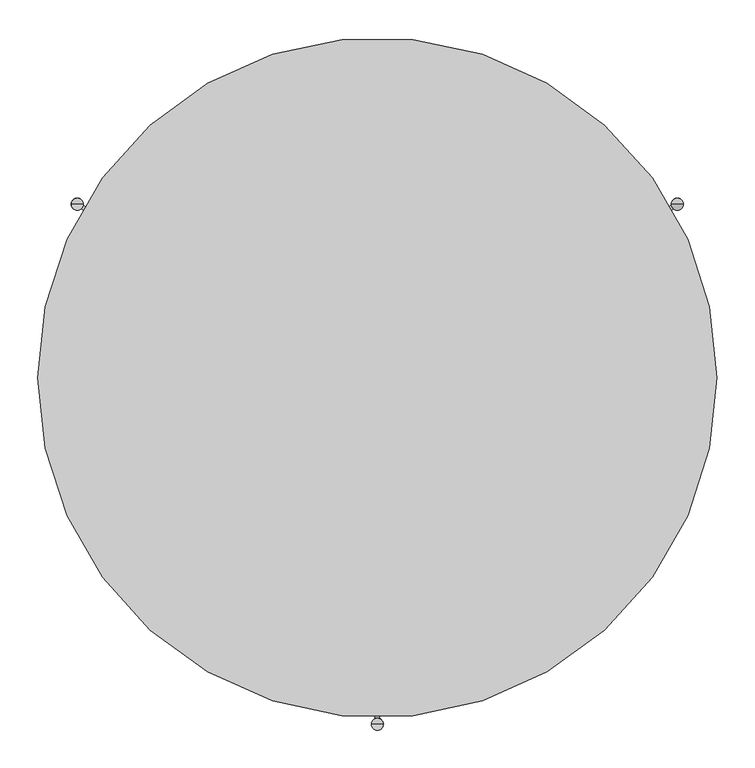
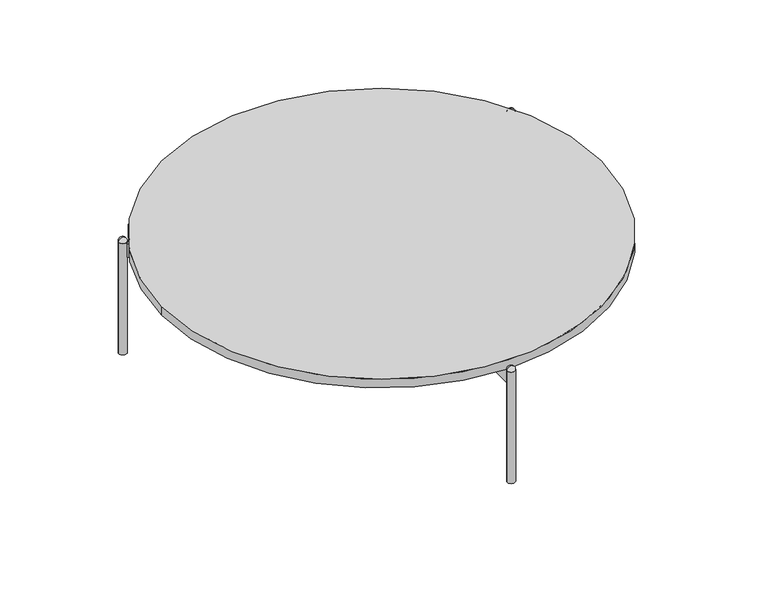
"""IFC4 building model written with IfcOpenShell, lengths in millimetres: furniture geometry, ROUND TABLE_H=25 : EI125B050090A_M."""

import ifcopenshell
import ifcopenshell.guid

model = None  # the IFC model being written
_history = None  # IfcOwnerHistory: only IFC2X3 demands one
_inside = {}  # id of a spatial element -> (the spatial element, [elements in it])
_under = {}  # id of a project, library or spatial element -> (it, [spatial elements below it])
_declared = {}  # id of a project -> (the project, [libraries it declares])
_typed = {}  # id of a type object -> (the type object, [elements of that type])
_made_of = {}  # id of a material, layer set ... -> (it, [elements and type objects made of it])


def new_model(schema):
    """Start an empty IFC model of exactly this schema.

    Asked for "IFC4X3", IfcOpenShell would pick the latest addendum, in which some entities
    have other attributes; the version numbers below select the first issue.
    IFC2X3 requires an IfcOwnerHistory on every rooted entity: one is made here for all.
    """
    global model, _history
    if schema == "IFC4X3":
        model = ifcopenshell.file(schema_version=(4, 3, 0, 0))
    else:
        model = ifcopenshell.file(schema=schema)
    _inside.clear()
    _under.clear()
    _declared.clear()
    _typed.clear()
    _made_of.clear()
    _history = None
    if model.schema == "IFC2X3":
        org = make("IfcOrganization", Name="unknown")
        user = make(
            "IfcPersonAndOrganization",
            ThePerson=make("IfcPerson", FamilyName="unknown"),
            TheOrganization=org,
        )
        app = make(
            "IfcApplication",
            ApplicationDeveloper=org,
            Version="unknown",
            ApplicationFullName="unknown",
            ApplicationIdentifier="unknown",
        )
        _history = make(
            "IfcOwnerHistory",
            OwningUser=user,
            OwningApplication=app,
            ChangeAction="ADDED",
            CreationDate=0,
        )
    return model


def make(cls, **values):
    """One entity of the class cls with the attributes given. An attribute that is None is left unset."""
    return model.create_entity(
        cls, **{name: value for name, value in values.items() if value is not None}
    )


def rooted(cls, **values):
    """An entity with a GlobalId (a new one), such as an element, a storey or a relation."""
    return make(cls, GlobalId=ifcopenshell.guid.new(), OwnerHistory=_history, **values)


def si_unit(unit_type, name, prefix=None):
    """IfcSIUnit, for example si_unit("LENGTHUNIT", "METRE", prefix="MILLI")."""
    return make("IfcSIUnit", UnitType=unit_type, Prefix=prefix, Name=name)


def assignment(units):
    """IfcUnitAssignment: the units of a project."""
    return None if units is None else make("IfcUnitAssignment", Units=units)


def point(xyz):
    """IfcCartesianPoint."""
    return None if xyz is None else make("IfcCartesianPoint", Coordinates=xyz)


def direction(xyz):
    """IfcDirection."""
    return None if xyz is None else make("IfcDirection", DirectionRatios=xyz)


def frame(location, z_axis=None, x_axis=None):
    """IfcAxis2Placement3D, a coordinate frame: its origin and axes. An axis left out is left unset."""
    return make(
        "IfcAxis2Placement3D",
        Location=point(location),
        Axis=direction(z_axis),
        RefDirection=direction(x_axis),
    )


def frame_2d(location, x_axis=None):
    """IfcAxis2Placement2D, a coordinate frame in the plane: its origin and x axis."""
    return make(
        "IfcAxis2Placement2D", Location=point(location), RefDirection=direction(x_axis)
    )


def origin():
    """The frame at (0, 0, 0) with its axes left unset."""
    return frame((0.0, 0.0, 0.0))


def origin_with_axes():
    """The frame at (0, 0, 0) with the z axis (0, 0, 1) and the x axis (1, 0, 0) written out."""
    return frame((0.0, 0.0, 0.0), z_axis=(0.0, 0.0, 1.0), x_axis=(1.0, 0.0, 0.0))


def origin_2d():
    """The frame at (0, 0) in the plane with its x axis left unset."""
    return frame_2d((0.0, 0.0))


def place(relative_to, where):
    """IfcLocalPlacement: puts the frame where relative to a parent placement (None: the world)."""
    return make(
        "IfcLocalPlacement", PlacementRelTo=relative_to, RelativePlacement=where
    )


def context(
    kind, dimensions, precision=None, world=None, true_north=None, identifier=None
):
    """IfcGeometricRepresentationContext, for example the 3D "Model" context."""
    return make(
        "IfcGeometricRepresentationContext",
        ContextIdentifier=identifier,
        ContextType=kind,
        CoordinateSpaceDimension=dimensions,
        Precision=precision,
        WorldCoordinateSystem=world,
        TrueNorth=true_north,
    )


def project(units=None, contexts=None):
    """IfcProject with its units and contexts."""
    return rooted(
        "IfcProject",
        Name="project",
        RepresentationContexts=contexts,
        UnitsInContext=assignment(units),
    )


def spatial(cls, under=None, at=None, **own):
    """A site, building, storey or space (cls), placed at a placement, below another one or the project."""
    s = rooted(cls, ObjectPlacement=at, **own)
    if under is not None:
        _under.setdefault(under.id(), (under, []))[1].append(s)
    return s


def polyline(points):
    """IfcPolyline through the points."""
    return make("IfcPolyline", Points=[point(p) for p in points])


def circle_curve(where, radius):
    """IfcCircle in the frame where."""
    return make("IfcCircle", Position=where, Radius=radius)


def ellipse_curve(where, semi_axis1, semi_axis2):
    """IfcEllipse in the frame where."""
    return make(
        "IfcEllipse", Position=where, SemiAxis1=semi_axis1, SemiAxis2=semi_axis2
    )


def trimmed(basis, trim1, trim2, sense, master):
    """IfcTrimmedCurve: the piece of a basis curve between two trims."""
    return make(
        "IfcTrimmedCurve",
        BasisCurve=basis,
        Trim1=trim1,
        Trim2=trim2,
        SenseAgreement=sense,
        MasterRepresentation=master,
    )


def segment(curve, same_sense, transition):
    """IfcCompositeCurveSegment."""
    return make(
        "IfcCompositeCurveSegment",
        Transition=transition,
        SameSense=same_sense,
        ParentCurve=curve,
    )


def composite_curve(segments, self_intersect=None):
    """IfcCompositeCurve: segments joined end to end."""
    return make("IfcCompositeCurve", Segments=segments, SelfIntersect=self_intersect)


def outline(outer, holes=None, kind="AREA"):
    """IfcArbitraryClosedProfileDef: a profile drawn as a closed curve; with holes, ...WithVoids."""
    if holes is None:
        return make("IfcArbitraryClosedProfileDef", ProfileType=kind, OuterCurve=outer)
    return make(
        "IfcArbitraryProfileDefWithVoids",
        ProfileType=kind,
        OuterCurve=outer,
        InnerCurves=holes,
    )


def extrude(swept, where, along, depth):
    """IfcExtrudedAreaSolid: the profile swept, set in the frame where, extruded along a direction by depth."""
    return make(
        "IfcExtrudedAreaSolid",
        SweptArea=swept,
        Position=where,
        ExtrudedDirection=direction(along),
        Depth=depth,
    )


def shape(context_of_items, identifier, shape_type, items):
    """IfcShapeRepresentation: the items that make up one representation, for example the "Body"."""
    return make(
        "IfcShapeRepresentation",
        ContextOfItems=context_of_items,
        RepresentationIdentifier=identifier,
        RepresentationType=shape_type,
        Items=items,
    )


def source(mapping_origin, context_of_items, identifier, shape_type, items):
    """IfcRepresentationMap: a shape defined once, which mapped items show again and again."""
    return make(
        "IfcRepresentationMap",
        MappingOrigin=mapping_origin,
        MappedRepresentation=shape(context_of_items, identifier, shape_type, items),
    )


def transform(
    local_origin,
    x_axis=None,
    y_axis=None,
    z_axis=None,
    scale=None,
    scale2=None,
    scale3=None,
    uniform=True,
):
    """IfcCartesianTransformationOperator3D, or its non-uniform kind. x_axis, y_axis, z_axis: its Axis1, 2, 3."""
    if uniform:
        return make(
            "IfcCartesianTransformationOperator3D",
            Axis1=direction(x_axis),
            Axis2=direction(y_axis),
            LocalOrigin=point(local_origin),
            Scale=scale,
            Axis3=direction(z_axis),
        )
    return make(
        "IfcCartesianTransformationOperator3DnonUniform",
        Axis1=direction(x_axis),
        Axis2=direction(y_axis),
        LocalOrigin=point(local_origin),
        Scale=scale,
        Axis3=direction(z_axis),
        Scale2=scale2,
        Scale3=scale3,
    )


def mapped(mapping_source, mapping_target):
    """IfcMappedItem: shows the shape of a source again, moved by a transform."""
    return make(
        "IfcMappedItem", MappingSource=mapping_source, MappingTarget=mapping_target
    )


def made_of(thing, what):
    """Note that an element or type object is made of a material, layer set ...; save() writes the relation."""
    if what is not None:
        _made_of.setdefault(what.id(), (what, []))[1].append(thing)
    return thing


def element(
    cls,
    number,
    at=None,
    inside=None,
    cuts=None,
    type_object=None,
    material=None,
    context=None,
    identifier="Body",
    shape_type=None,
    held_by="IfcProductDefinitionShape",
    body=None,
    shapes=None,
    **own,
):
    """One element of the class cls, such as IfcWall. Its Tag is "e" and its number.

    at: its placement. inside: the storey or other place that contains it. cuts: it is an
    opening in that element (IfcRelVoidsElement). A single representation is given by context,
    identifier, shape_type and body (its items); several are given by shapes. held_by: the class
    of the entity that holds the representations. save() writes the other relations.
    """
    e = rooted(cls, Tag="e%d" % number, ObjectPlacement=at, **own)
    if body is not None:
        shapes = [shape(context, identifier, shape_type, body)]
    if shapes is not None:
        e.Representation = make(held_by, Representations=shapes)
    if inside is not None:
        _inside.setdefault(inside.id(), (inside, []))[1].append(e)
    if cuts is not None:
        rooted(
            "IfcRelVoidsElement", RelatingBuildingElement=cuts, RelatedOpeningElement=e
        )
    if type_object is not None:
        _typed.setdefault(type_object.id(), (type_object, []))[1].append(e)
    return made_of(e, material)


def aggregate(whole, parts):
    """IfcRelAggregates: a whole, such as a stair, and the parts it consists of."""
    return rooted("IfcRelAggregates", RelatingObject=whole, RelatedObjects=parts)


def save(model, path):
    """Write the relations noted so far, then the file.

    IfcRelAggregates (storeys below a building ...), IfcRelContainedInSpatialStructure (elements
    in a storey), IfcRelDefinesByType, IfcRelAssociatesMaterial and IfcRelDeclares: one each for
    every whole, place, type object, material and project.
    """
    for whole, parts in _under.values():
        aggregate(whole, parts)
    for where, things in _inside.values():
        rooted(
            "IfcRelContainedInSpatialStructure",
            RelatedElements=things,
            RelatingStructure=where,
        )
    for kind, things in _typed.values():
        rooted("IfcRelDefinesByType", RelatedObjects=things, RelatingType=kind)
    for what, things in _made_of.values():
        rooted("IfcRelAssociatesMaterial", RelatedObjects=things, RelatingMaterial=what)
    for by, libraries in _declared.values():
        rooted("IfcRelDeclares", RelatingContext=by, RelatedDefinitions=libraries)
    model.write(path)


def plane_surface(at):
    """IfcPlane: the flat surface through the origin of the frame at, square to its z axis."""
    return make("IfcPlane", Position=at)


def revolved_surface(curve, axis_point, axis_direction):
    """IfcSurfaceOfRevolution: the curve turned about the line through axis_point along axis_direction."""
    return make(
        "IfcSurfaceOfRevolution",
        SweptCurve=make("IfcArbitraryOpenProfileDef", ProfileType="CURVE", Curve=curve),
        AxisPosition=make("IfcAxis1Placement", Location=point(axis_point), Axis=direction(axis_direction)),
    )


def advanced_brep(points, edges, surfaces, faces):
    """IfcAdvancedBrep: a solid bounded by faces that lie on surfaces and meet in shared edges.

    An edge is (start, end): straight between two places in points (the first is 0);
    or (start, end, curve); or (start, end, curve, False) where it runs against its curve.
    A face is (place in surfaces, loops), or (place, loops, False) where it looks against
    its surface's normal. A loop lists edges by number (the first is 1), with a minus sign
    where the edge is run from its end to its start. The first loop is the outer one.
    """
    corners = [point(p) for p in points]
    vertices = [make("IfcVertexPoint", VertexGeometry=c) for c in corners]
    made = []
    for start, end, *more in edges:
        made.append(
            make(
                "IfcEdgeCurve",
                EdgeStart=vertices[start],
                EdgeEnd=vertices[end],
                EdgeGeometry=more[0] if more else make("IfcPolyline", Points=[corners[start], corners[end]]),
                SameSense=more[1] if len(more) > 1 else True,
            )
        )
    hull = []
    for where, loops, *sense in faces:
        bounds = []
        for j, loop in enumerate(loops):
            ring = [make("IfcOrientedEdge", EdgeElement=made[abs(k) - 1], Orientation=k > 0) for k in loop]
            bounds.append(
                make(
                    "IfcFaceOuterBound" if j == 0 else "IfcFaceBound",
                    Bound=make("IfcEdgeLoop", EdgeList=ring),
                    Orientation=True,
                )
            )
        hull.append(make("IfcAdvancedFace", Bounds=bounds, FaceSurface=surfaces[where], SameSense=sense[0] if sense else True))
    return make("IfcAdvancedBrep", Outer=make("IfcClosedShell", CfsFaces=hull))


def furniture_68b2156a(model_context):
    return source(origin(), model_context, "Body", "SolidModel", [
        extrude(outline(composite_curve([segment(trimmed(circle_curve(origin_2d(), 450.0), [point((-450.0, 0.0))], [point((450.0, 0.0))], False, "CARTESIAN"), True, "CONTINUOUS"), segment(trimmed(circle_curve(origin_2d(), 450.0), [point((450.0, 0.0))], [point((-450.0, 0.0))], False, "CARTESIAN"), True, "CONTINUOUS")], self_intersect=False)), frame((0.0, 0.0, 237.6939464), z_axis=(0.0, 0.0, 1.0), x_axis=(1.0, 0.0, 0.0)), (0.0, 0.0, 1.0), 19.0),
        advanced_brep(
        [(397.55, 229.6, 249.1666667), (389.55, 229.6, 241.1666667), (405.55, 229.6, 241.1666667), (397.55, 229.6, 241.1666667)],
        [
            (0, 1, circle_curve(frame((397.55, 229.6, 241.1666667), z_axis=(0.0, -1.0, 0.0), x_axis=(1.0, 0.0, 0.0)), 8.0)),
            (1, 2, circle_curve(frame((397.55, 229.6, 241.1666667), z_axis=(0.0, 0.0, 1.0), x_axis=(-1.0, 0.0, 0.0)), 8.0)),
            (2, 0, circle_curve(frame((397.55, 229.6, 241.1666667), z_axis=(0.0, -1.0, 0.0), x_axis=(-1.0, 0.0, 0.0)), 8.0)),
            (2, 1, circle_curve(frame((397.55, 229.6, 241.1666667), z_axis=(0.0, 0.0, 1.0), x_axis=(-1.0, 0.0, 0.0)), 8.0)),
            (1, 3),
            (3, 2),
        ],
        [
            revolved_surface(trimmed(ellipse_curve(frame((397.55, 229.6, 241.1666667), z_axis=(0.0, 1.0, 0.0), x_axis=(1.0, 0.0, 0.0)), 8.0, 8.0), [point((389.55, 229.6, 241.1666667))], [point((397.55, 229.6, 249.1666667))], True, "CARTESIAN"), (397.55, 229.6, 2438.4), (0.0, 0.0, 1.0)),
            plane_surface(frame((397.55, 229.6, 241.1666667), z_axis=(0.0, 0.0, -1.0), x_axis=(-1.0, 0.0, 0.0))),
        ],
        [
            (0, [[1, 2, 3]]),
            (0, [[-3, 4, -1]]),
            (1, [[-2, 5, 6]]),
            (1, [[-4, -6, -5]]),
        ],
    ),
        advanced_brep(
        [(397.55, 229.6, 249.1666667), (389.55, 229.6, 241.1666667), (405.55, 229.6, 241.1666667), (397.55, 229.6, 241.1666667)],
        [
            (0, 1, circle_curve(frame((397.55, 229.6, 241.1666667), z_axis=(0.0, -1.0, 0.0), x_axis=(1.0, 0.0, 0.0)), 8.0)),
            (1, 2, circle_curve(frame((397.55, 229.6, 241.1666667), z_axis=(0.0, 0.0, 1.0), x_axis=(-1.0, 0.0, 0.0)), 8.0)),
            (2, 0, circle_curve(frame((397.55, 229.6, 241.1666667), z_axis=(0.0, -1.0, 0.0), x_axis=(-1.0, 0.0, 0.0)), 8.0)),
            (2, 1, circle_curve(frame((397.55, 229.6, 241.1666667), z_axis=(0.0, 0.0, 1.0), x_axis=(-1.0, 0.0, 0.0)), 8.0)),
            (1, 3),
            (3, 2),
        ],
        [
            revolved_surface(trimmed(ellipse_curve(frame((397.55, 229.6, 241.1666667), z_axis=(0.0, 1.0, 0.0), x_axis=(1.0, 0.0, 0.0)), 8.0, 8.0), [point((389.55, 229.6, 241.1666667))], [point((397.55, 229.6, 249.1666667))], True, "CARTESIAN"), (397.55, 229.6, 2438.4), (0.0, 0.0, 1.0)),
            plane_surface(frame((397.55, 229.6, 241.1666667), z_axis=(0.0, 0.0, -1.0), x_axis=(-1.0, 0.0, 0.0))),
        ],
        [
            (0, [[1, 2, 3]]),
            (0, [[-3, 4, -1]]),
            (1, [[-2, 5, 6]]),
            (1, [[-4, -6, -5]]),
        ],
    ),
        advanced_brep(
        [(-405.55, 229.6, 241.1666667), (-389.55, 229.6, 241.1666667), (-397.55, 229.6, 249.1666667), (-397.55, 229.6, 241.1666667)],
        [
            (0, 1, circle_curve(frame((-397.55, 229.6, 241.1666667), z_axis=(0.0, 0.0, 1.0), x_axis=(1.0, 0.0, 0.0)), 8.0)),
            (1, 2, circle_curve(frame((-397.55, 229.6, 241.1666667), z_axis=(0.0, -1.0, 0.0), x_axis=(-1.0, 0.0, 0.0)), 8.0)),
            (2, 0, circle_curve(frame((-397.55, 229.6, 241.1666667), z_axis=(0.0, -1.0, 0.0), x_axis=(1.0, 0.0, 0.0)), 8.0)),
            (1, 0, circle_curve(frame((-397.55, 229.6, 241.1666667), z_axis=(0.0, 0.0, 1.0), x_axis=(1.0, 0.0, 0.0)), 8.0)),
            (3, 1),
            (0, 3),
        ],
        [
            revolved_surface(trimmed(ellipse_curve(frame((-397.55, 229.6, 241.1666667), z_axis=(0.0, 1.0, 0.0), x_axis=(-1.0, 0.0, 0.0)), 8.0, 8.0), [point((-397.55, 229.6, 249.1666667))], [point((-389.55, 229.6, 241.1666667))], True, "CARTESIAN"), (-397.55, 229.6, 2438.4), (0.0, 0.0, -1.0)),
            plane_surface(frame((-397.55, 229.6, 241.1666667), z_axis=(0.0, 0.0, -1.0), x_axis=(1.0, 0.0, 0.0))),
        ],
        [
            (0, [[1, 2, 3]]),
            (0, [[4, -3, -2]]),
            (1, [[5, -1, 6]]),
            (1, [[-6, -4, -5]]),
        ],
    ),
        advanced_brep(
        [(-8.025371, -459.0, 241.1666667), (7.974629, -459.0, 241.1666667), (-0.025371, -459.0, 249.1666667), (-0.025371, -459.0, 241.1666667)],
        [
            (0, 1, circle_curve(frame((-0.025371, -459.0, 241.1666667), z_axis=(0.0, 0.0, 1.0), x_axis=(1.0, 0.0, 0.0)), 8.0)),
            (1, 2, circle_curve(frame((-0.025371, -459.0, 241.1666667), z_axis=(0.0, -1.0, 0.0), x_axis=(-1.0, 0.0, 0.0)), 8.0)),
            (2, 0, circle_curve(frame((-0.025371, -459.0, 241.1666667), z_axis=(0.0, -1.0, 0.0), x_axis=(1.0, 0.0, 0.0)), 8.0)),
            (1, 0, circle_curve(frame((-0.025371, -459.0, 241.1666667), z_axis=(0.0, 0.0, 1.0), x_axis=(1.0, 0.0, 0.0)), 8.0)),
            (3, 1),
            (0, 3),
        ],
        [
            revolved_surface(trimmed(ellipse_curve(frame((-0.025371, -459.0, 241.1666667), z_axis=(0.0, 1.0, 0.0), x_axis=(-1.0, 0.0, 0.0)), 8.0, 8.0), [point((-0.025371, -459.0, 249.1666667))], [point((7.974629, -459.0, 241.1666667))], True, "CARTESIAN"), (-0.025371, -459.0, 2438.4), (0.0, 0.0, -1.0)),
            plane_surface(frame((-0.025371, -459.0, 241.1666667), z_axis=(0.0, 0.0, -1.0), x_axis=(1.0, 0.0, 0.0))),
        ],
        [
            (0, [[1, 2, 3]]),
            (0, [[4, -3, -2]]),
            (1, [[5, -1, 6]]),
            (1, [[-6, -4, -5]]),
        ],
    ),
        extrude(outline(composite_curve([segment(polyline([(-19.7129166, 7.9278768), (-392.6744849, 223.2573387)]), True, "CONTINUOUS"), segment(trimmed(circle_curve(frame_2d((-397.55, 229.6)), 8.0), [point((-392.6744849, 223.2573387))], [point((-389.6358441, 228.4311818))], True, "CARTESIAN"), True, "CONTINUOUS"), segment(polyline([(-389.6358441, 228.4311818), (-16.7129166, 13.1240293), (-19.7129166, 7.9278768)]), True, "CONTINUOUS")], self_intersect=False)), frame((0.0, 0.0, 207.6939464), z_axis=(0.0, 0.0, 1.0), x_axis=(1.0, 0.0, 0.0)), (0.0, 0.0, 1.0), 30.0),
        extrude(outline(composite_curve([segment(polyline([(19.7314855, 7.9171561), (16.7314855, 13.1133085), (389.6387851, 228.4114383)]), True, "CONTINUOUS"), segment(trimmed(circle_curve(frame_2d((397.55, 229.6)), 8.0), [point((389.6387851, 228.4114383))], [point((392.6904379, 223.2451077))], True, "CARTESIAN"), True, "CONTINUOUS"), segment(polyline([(392.6904379, 223.2451077), (19.7314855, 7.9171561)]), True, "CONTINUOUS")], self_intersect=False)), frame((0.0, 0.0, 207.6939464), z_axis=(0.0, 0.0, 1.0), x_axis=(1.0, 0.0, 0.0)), (0.0, 0.0, 1.0), 30.0),
        extrude(outline(composite_curve([segment(polyline([(3.0, -21.0411853), (3.0, -451.5838015)]), True, "CONTINUOUS"), segment(trimmed(circle_curve(frame_2d((0.0, -459.0)), 8.0), [point((3.0, -451.5838015))], [point((-3.0, -451.5838015))], True, "CARTESIAN"), True, "CONTINUOUS"), segment(polyline([(-3.0, -451.5838015), (-3.0, -21.0411853), (3.0, -21.0411853)]), True, "CONTINUOUS")], self_intersect=False)), frame((0.0, 0.0, 207.6939464), z_axis=(0.0, 0.0, 1.0), x_axis=(1.0, 0.0, 0.0)), (0.0, 0.0, 1.0), 30.0),
        extrude(outline(composite_curve([segment(trimmed(circle_curve(origin_2d(), 23.0), [point((-23.0, 0.0))], [point((23.0, 0.0))], False, "CARTESIAN"), True, "CONTINUOUS"), segment(trimmed(circle_curve(origin_2d(), 23.0), [point((23.0, 0.0))], [point((-23.0, 0.0))], False, "CARTESIAN"), True, "CONTINUOUS")], self_intersect=False)), frame((0.0, 0.0, 207.6939464), z_axis=(0.0, 0.0, 1.0), x_axis=(1.0, 0.0, 0.0)), (0.0, 0.0, 1.0), 30.0),
        extrude(outline(composite_curve([segment(trimmed(circle_curve(frame_2d((-397.55, 229.6)), 8.0), [point((-405.55, 229.6))], [point((-389.55, 229.6))], False, "CARTESIAN"), True, "CONTINUOUS"), segment(trimmed(circle_curve(frame_2d((-397.55, 229.6)), 8.0), [point((-389.55, 229.6))], [point((-405.55, 229.6))], False, "CARTESIAN"), True, "CONTINUOUS")], self_intersect=False)), origin_with_axes(), (0.0, 0.0, 1.0), 241.1666667),
        extrude(outline(composite_curve([segment(trimmed(circle_curve(frame_2d((397.55, 229.6)), 8.0), [point((389.55, 229.6))], [point((405.55, 229.6))], False, "CARTESIAN"), True, "CONTINUOUS"), segment(trimmed(circle_curve(frame_2d((397.55, 229.6)), 8.0), [point((405.55, 229.6))], [point((389.55, 229.6))], False, "CARTESIAN"), True, "CONTINUOUS")], self_intersect=False)), origin_with_axes(), (0.0, 0.0, 1.0), 241.1666667),
        extrude(outline(composite_curve([segment(trimmed(circle_curve(frame_2d((0.0, -459.0)), 8.0), [point((-8.0, -459.0))], [point((8.0, -459.0))], False, "CARTESIAN"), True, "CONTINUOUS"), segment(trimmed(circle_curve(frame_2d((0.0, -459.0)), 8.0), [point((8.0, -459.0))], [point((-8.0, -459.0))], False, "CARTESIAN"), True, "CONTINUOUS")], self_intersect=False)), origin_with_axes(), (0.0, 0.0, 1.0), 241.1666667),
    ])


if __name__ == "__main__":
    model = new_model("IFC4")
    model_context = context("Model", 3, world=origin())
    ifc_project = project(units=[si_unit("LENGTHUNIT", "METRE", prefix="MILLI")], contexts=[model_context])
    site = spatial("IfcSite", under=ifc_project)
    building = spatial("IfcBuilding", under=site)
    placement = place(None, origin())
    furniture_shape = furniture_68b2156a(model_context)
    element("IfcFurniture", 1, ObjectType="ROUND TABLE_H=25 : EI125B050090A_M", at=placement, inside=building, context=model_context, shape_type="MappedRepresentation", body=[
        mapped(furniture_shape, transform((0.0, 0.0, 0.0), x_axis=(1.0, 0.0, 0.0), y_axis=(0.0, 1.0, 0.0), z_axis=(0.0, 0.0, 1.0))),
    ])
    save(model, "model.ifc")
